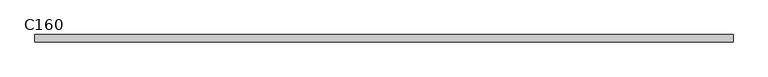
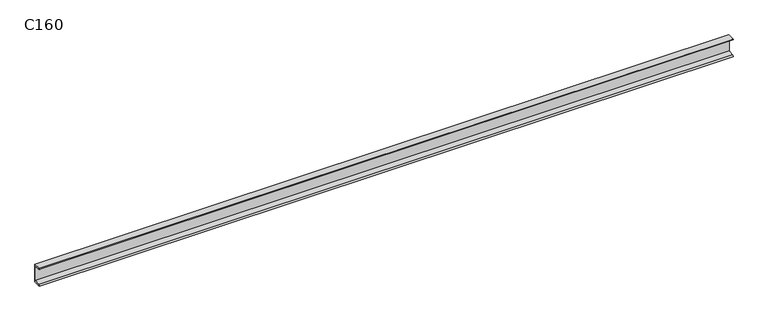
"""IFC4 building model written with IfcOpenShell, lengths in millimetres: beam geometry, RPLN C - Ceowniki normalne : C160."""

from ifc_helpers import new_model, si_unit, point, frame, frame_2d, origin, place, context, project, spatial, polyline, circle_curve, trimmed, segment, composite_curve, outline, extrude, source, transform, mapped, element, save


def c160_6856dfb5(model_context):
    return source(origin(), model_context, "Body", "SweptSolid", [
        extrude(outline(composite_curve([segment(polyline([(18.4, 80.0), (18.4, -80.0), (-46.6, -80.0)]), True, "CONTINUOUS"), segment(trimmed(circle_curve(frame_2d((-36.1, -80.0)), 10.5), [point((-46.6, -80.0))], [point((-36.1, -69.5))], False, "CARTESIAN"), True, "CONTINUOUS"), segment(polyline([(-36.1, -69.5), (10.9, -62.0559313), (10.9, 62.0559313), (-36.1, 69.5)]), True, "CONTINUOUS"), segment(trimmed(circle_curve(frame_2d((-36.1, 80.0)), 10.5), [point((-36.1, 69.5))], [point((-46.6, 80.0))], False, "CARTESIAN"), True, "CONTINUOUS"), segment(polyline([(-46.6, 80.0), (18.4, 80.0)]), True, "CONTINUOUS")], self_intersect=False)), frame((-3000.0, 0.0, 0.0), z_axis=(1.0, 0.0, 0.0), x_axis=(0.0, 1.0, 0.0)), (0.0, 0.0, 1.0), 5987.2999994),
    ])


if __name__ == "__main__":
    model = new_model("IFC4")
    model_context = context("Model", 3, world=origin())
    ifc_project = project(units=[si_unit("LENGTHUNIT", "METRE", prefix="MILLI")], contexts=[model_context])
    site = spatial("IfcSite", under=ifc_project)
    building = spatial("IfcBuilding", under=site)
    placement = place(None, origin())
    c160_shape = c160_6856dfb5(model_context)
    element("IfcBeam", 1, ObjectType="RPLN C - Ceowniki normalne : C160", at=placement, inside=building, context=model_context, shape_type="MappedRepresentation", body=[
        mapped(c160_shape, transform((0.0, 0.0, 0.0), x_axis=(1.0, 0.0, 0.0), y_axis=(0.0, 1.0, 0.0), z_axis=(0.0, 0.0, 1.0))),
    ])
    save(model, "model.ifc")
